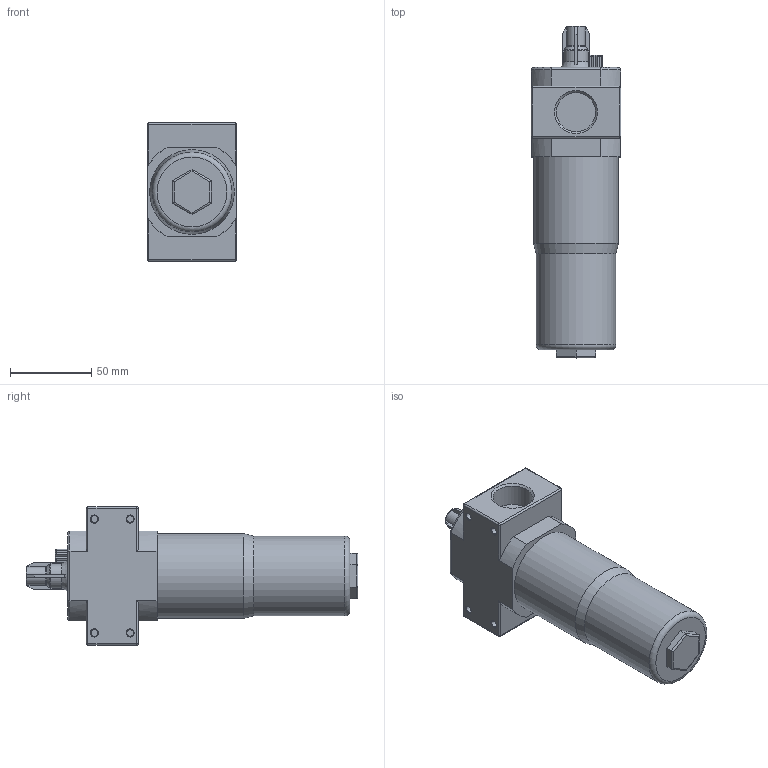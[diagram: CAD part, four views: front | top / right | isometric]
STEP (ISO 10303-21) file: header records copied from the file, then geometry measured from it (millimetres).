
FILE_DESCRIPTION(/* description */ ('STEP AP214'),/* implementation_level */ '2;1');
FILE_NAME(/* name */ '90-OC-33.stp',/* time_stamp */ '2026-01-20T15:17:56+01:00',/* author */ ('Tschernatsch'),/* organization */ ('CADENAS'),/* preprocessor_version */ 'ST-DEVELOPER v20',/* originating_system */ 'Autodesk Inventor 2024',/* authorisation */ ' ');
FILE_SCHEMA (('AUTOMOTIVE_DESIGN { 1 0 10303 214 3 1 1 }'));
Length unit declared in the file: millimetre
Products named in the file (1): LOE-G3/4-MIDI_____
Bounding box: 55 x 204 x 85 mm (x, y, z)
Volume: 442431.3 mm3; surface area: 45297.9 mm2
Topology: 1 solids, 1 shells, 182 faces, 444 edges, 266 vertices
Faces by surface type: cylinder 74, plane 66, torus 22, cone 12, sphere 8
Full cylindrical faces by diameter (mm): 4.134 x4, 24.117 x2, 49 x1, 52 x1
Entity records: 5646 total; most frequent: CARTESIAN_POINT 1395, DIRECTION 892, ORIENTED_EDGE 872, EDGE_CURVE 436, AXIS2_PLACEMENT_3D 334, VERTEX_POINT 266, LINE 224, VECTOR 224
